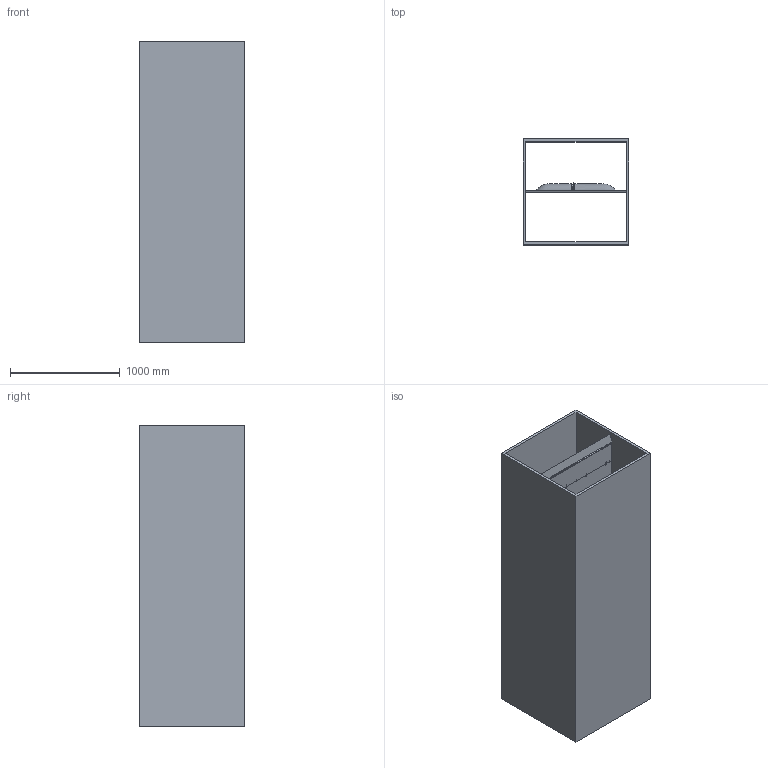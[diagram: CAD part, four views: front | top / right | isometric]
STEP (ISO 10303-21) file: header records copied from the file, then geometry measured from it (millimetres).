
FILE_DESCRIPTION (( 'STEP AP203' ), '1' );
FILE_NAME ('SPLITTER_ASSEMBLY_bump36_CFD_st.STEP', '2022-07-15T18:25:58', ( '' ), ( '' ), 'SwSTEP 2.0', 'SolidWorks 2020', '' );
FILE_SCHEMA (( 'CONFIG_CONTROL_DESIGN' ));
Length unit declared in the file: inch
Products named in the file (10): LeadingSection_v8; speedBump_v9a; BumpCover_vCFD; 4inSpacerSection_v11; test_section_fullCFD_cf; SPLITTER_ASSEMBLY_bump36_CFD_st; TrailingSection_v11; TrailingFlap_v8; MovableSection_v9; speedBump_v9b
Assembly tree (10 placements, depth 2):
  SPLITTER_ASSEMBLY_bump36_CFD_st
    LeadingSection_v8
    speedBump_v9a
    speedBump_v9b
    TrailingFlap_v8
    TrailingSection_v11
    MovableSection_v9  x2
    4inSpacerSection_v11
    BumpCover_vCFD
    test_section_fullCFD_cf
Bounding box: 965.2 x 965.2 x 2743.2 mm (x, y, z)
Volume: 281259911.9 mm3; surface area: 30065751 mm2
Topology: 8 solids, 10 shells, 493 faces, 1065 edges, 705 vertices
Faces by surface type: cylinder 271, plane 198, bspline 24
Entity records: 43287 total; most frequent: CARTESIAN_POINT 32492, DIRECTION 2117, ORIENTED_EDGE 1890, EDGE_CURVE 945, AXIS2_PLACEMENT_3D 851, VERTEX_POINT 625, EDGE_LOOP 550, FACE_OUTER_BOUND 435
